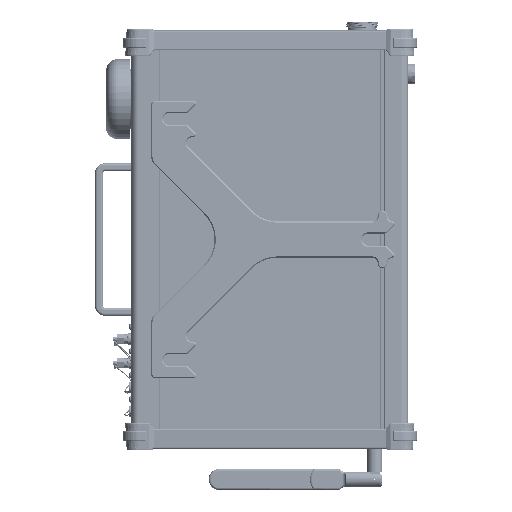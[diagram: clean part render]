
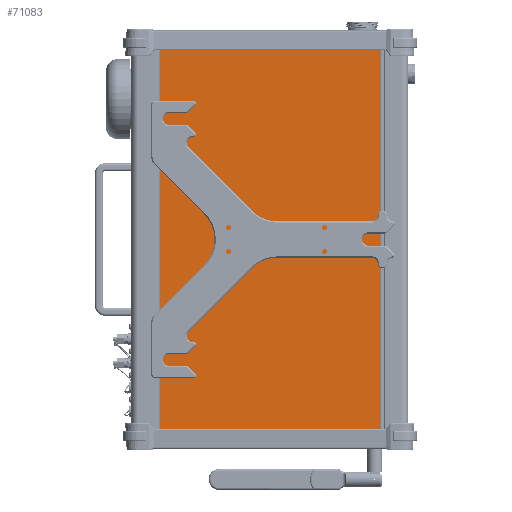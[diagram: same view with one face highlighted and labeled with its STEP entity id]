
A CAD part, left-side view. The second image highlights one B-rep face of the part: STEP entity #71083.
In plain terms, the highlighted planar face has unit normal (-1, 0, 0).
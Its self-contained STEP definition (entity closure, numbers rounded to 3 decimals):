
#3470=PLANE('',#75583);
#5261=FACE_OUTER_BOUND('',#9429,.T.);
#9429=EDGE_LOOP('',(#45663,#45664,#45665,#45666));
#14304=LINE('',#105572,#19283);
#14305=LINE('',#105575,#19284);
#14306=LINE('',#105577,#19285);
#14307=LINE('',#105578,#19286);
#19283=VECTOR('',#84665,327.);
#19284=VECTOR('',#84668,183.);
#19285=VECTOR('',#84669,183.);
#19286=VECTOR('',#84670,327.);
#28035=VERTEX_POINT('',#105568);
#28036=VERTEX_POINT('',#105570);
#28037=VERTEX_POINT('',#105574);
#28038=VERTEX_POINT('',#105576);
#34956=EDGE_CURVE('',#28035,#28036,#14304,.T.);
#34957=EDGE_CURVE('',#28037,#28035,#14305,.T.);
#34958=EDGE_CURVE('',#28038,#28036,#14306,.T.);
#34959=EDGE_CURVE('',#28037,#28038,#14307,.T.);
#45663=ORIENTED_EDGE('',*,*,#34957,.T.);
#45664=ORIENTED_EDGE('',*,*,#34956,.T.);
#45665=ORIENTED_EDGE('',*,*,#34958,.F.);
#45666=ORIENTED_EDGE('',*,*,#34959,.F.);
#71083=ADVANCED_FACE('',(#5261),#3470,.T.);
#75583=AXIS2_PLACEMENT_3D('',#105573,#84666,#84667);
#84665=DIRECTION('',(0.,0.,-1.));
#84666=DIRECTION('center_axis',(-1.,0.,0.));
#84667=DIRECTION('ref_axis',(0.,1.,0.));
#84668=DIRECTION('',(0.,1.,0.));
#84669=DIRECTION('',(0.,1.,0.));
#84670=DIRECTION('',(0.,0.,-1.));
#105568=CARTESIAN_POINT('',(4.779,555.775,345.305));
#105570=CARTESIAN_POINT('',(4.779,555.775,18.305));
#105572=CARTESIAN_POINT('',(4.779,555.775,345.305));
#105573=CARTESIAN_POINT('Origin',(4.779,372.775,345.305));
#105574=CARTESIAN_POINT('',(4.779,372.775,345.305));
#105575=CARTESIAN_POINT('',(4.779,372.775,345.305));
#105576=CARTESIAN_POINT('',(4.779,372.775,18.305));
#105577=CARTESIAN_POINT('',(4.779,372.775,18.305));
#105578=CARTESIAN_POINT('',(4.779,372.775,345.305));
